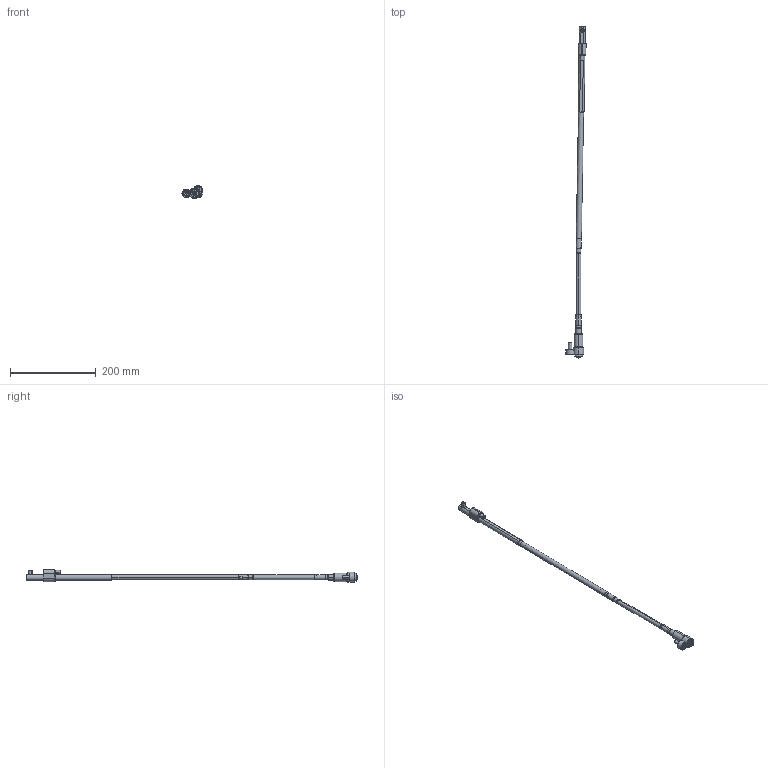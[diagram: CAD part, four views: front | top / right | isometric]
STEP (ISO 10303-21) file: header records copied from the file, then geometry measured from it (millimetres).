
FILE_DESCRIPTION (( 'STEP AP214' ), '1' );
FILE_NAME ('WL120125-INJ 1°.STEP', '2021-03-19T15:39:25', ( '' ), ( '' ), 'SwSTEP 2.0', 'SolidWorks 2019', '' );
FILE_SCHEMA (( 'AUTOMOTIVE_DESIGN' ));
Length unit declared in the file: millimetre
Products named in the file (17): Web-WL12-XX_OFF-WL120125-1; WL120100-E; 9DR2808-TOR; Web-WL12-A8; 1DIN912820_DIN 912 M8 x 20 --- 20C; WL120100-B1; Web-WL12-A2; WL120125-INJ 1°; 1DIN912645_DIN 912 M6 x 45 --- 45C; WL120100-B; Web-WL12-A3; Web-WL12-F00.SLDPRT; 8WL12EJEP; Web-WL12-A1; WL120100-D; Web-WL12-F01; 3IMAN5X3-150_con sellador
Assembly tree (16 placements, depth 3):
  WL120125-INJ 1°
    Web-WL12-A8
    Web-WL12-XX_OFF-WL120125-1
    Web-WL12-A3
    Web-WL12-A2
    Web-WL12-A1
    Web-WL12-F00.SLDPRT
      Web-WL12-F01
      1DIN912820_DIN 912 M8 x 20 --- 20C
      1DIN912645_DIN 912 M6 x 45 --- 45C
    WL120100-D
    8WL12EJEP
    WL120100-E
    9DR2808-TOR
    WL120100-B
      WL120100-B1
      3IMAN5X3-150_con sellador
Bounding box: 46.92 x 773.04 x 29.9 mm (x, y, z)
Volume: 116548.8 mm3; surface area: 51030.2 mm2
Topology: 15 solids, 15 shells, 432 faces, 906 edges, 525 vertices
Faces by surface type: plane 139, cylinder 123, cone 120, torus 50
Entity records: 13661 total; most frequent: DIRECTION 2240, CARTESIAN_POINT 2104, ORIENTED_EDGE 1788, AXIS2_PLACEMENT_3D 929, EDGE_CURVE 894, VERTEX_POINT 525, EDGE_LOOP 477, CIRCLE 476
